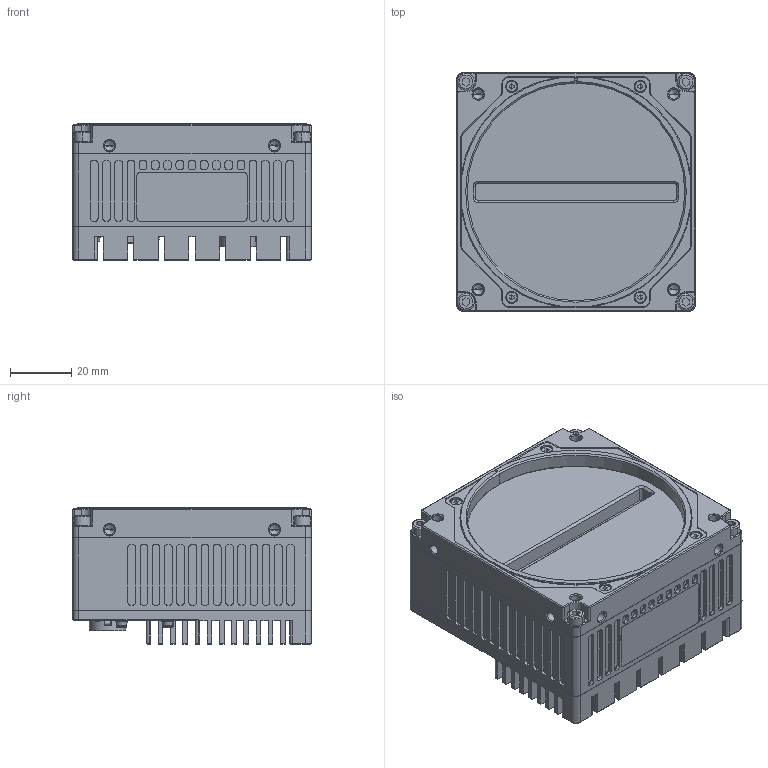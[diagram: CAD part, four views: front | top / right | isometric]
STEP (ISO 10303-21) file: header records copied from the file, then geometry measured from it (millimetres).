
FILE_DESCRIPTION((''),'2;1');
FILE_NAME('SW-16001M-MCL-M72','2025-09-24T17:09:16',('aso'),(''),'CREO PARAMETRIC BY PTC INC, 2024133','CREO PARAMETRIC BY PTC INC, 2024133','');
FILE_SCHEMA(('AUTOMOTIVE_DESIGN { 1 0 10303 214 1 1 1 1 }'));
Products named in the file (1): SW-16001M-MCL-M72
Bounding box: 78 x 78 x 44.59 mm (x, y, z)
Volume: 202498.1 mm3; surface area: 50865.7 mm2
Topology: 2 solids, 18 shells, 2902 faces, 7998 edges, 5198 vertices
Faces by surface type: plane 1907, cylinder 767, cone 178, sphere 26, bspline 16, torus 8
Entity records: 113302 total; most frequent: CARTESIAN_POINT 17504, ORIENTED_EDGE 15814, DIRECTION 15503, EDGE_CURVE 7932, VECTOR 5655, LINE 5655, VERTEX_POINT 5198, AXIS2_PLACEMENT_3D 4924
